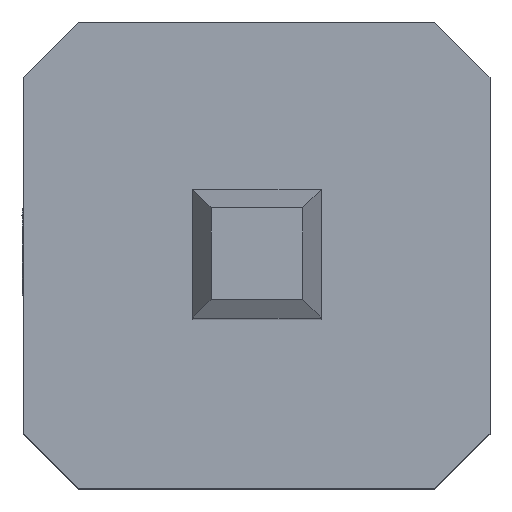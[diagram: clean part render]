
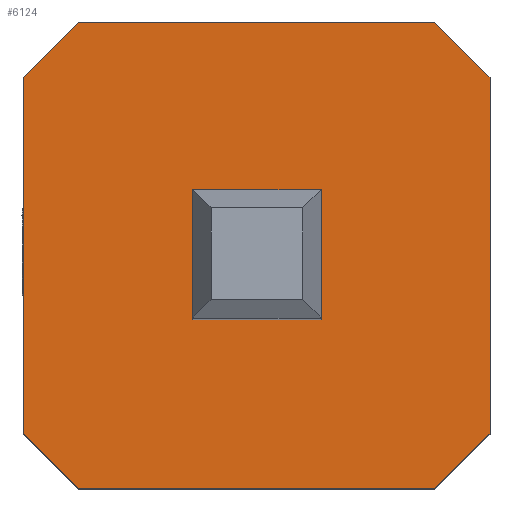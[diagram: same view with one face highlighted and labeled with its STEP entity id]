
A CAD part, top view. The second image highlights one B-rep face of the part: STEP entity #6124.
In plain terms, the highlighted planar face has unit normal (0, 0, 1).
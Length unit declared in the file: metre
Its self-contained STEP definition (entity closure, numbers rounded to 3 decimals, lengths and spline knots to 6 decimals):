
#534=LINE('',#12612,#1073);
#536=LINE('',#12616,#1075);
#538=LINE('',#12620,#1077);
#539=LINE('',#12622,#1078);
#558=LINE('',#12663,#1097);
#559=LINE('',#12666,#1098);
#560=LINE('',#12668,#1099);
#561=LINE('',#12670,#1100);
#562=LINE('',#12672,#1101);
#563=LINE('',#12674,#1102);
#564=LINE('',#12676,#1103);
#565=LINE('',#12678,#1104);
#1073=VECTOR('',#9942,1.);
#1075=VECTOR('',#9946,1.);
#1077=VECTOR('',#9950,1.);
#1078=VECTOR('',#9953,1.);
#1097=VECTOR('',#9984,1.);
#1098=VECTOR('',#9985,1.);
#1099=VECTOR('',#9986,1.);
#1100=VECTOR('',#9987,1.);
#1101=VECTOR('',#9988,1.);
#1102=VECTOR('',#9989,1.);
#1103=VECTOR('',#9990,1.);
#1104=VECTOR('',#9991,1.);
#2744=ORIENTED_EDGE('',*,*,#3846,.T.);
#2745=ORIENTED_EDGE('',*,*,#3847,.T.);
#2746=ORIENTED_EDGE('',*,*,#3848,.T.);
#2747=ORIENTED_EDGE('',*,*,#3849,.T.);
#2748=ORIENTED_EDGE('',*,*,#3850,.T.);
#2749=ORIENTED_EDGE('',*,*,#3851,.T.);
#2750=ORIENTED_EDGE('',*,*,#3852,.T.);
#2751=ORIENTED_EDGE('',*,*,#3853,.T.);
#2752=ORIENTED_EDGE('',*,*,#3822,.F.);
#2753=ORIENTED_EDGE('',*,*,#3824,.F.);
#2754=ORIENTED_EDGE('',*,*,#3826,.F.);
#2755=ORIENTED_EDGE('',*,*,#3827,.F.);
#3822=EDGE_CURVE('',#4400,#4399,#534,.T.);
#3824=EDGE_CURVE('',#4401,#4400,#536,.T.);
#3826=EDGE_CURVE('',#4402,#4401,#538,.T.);
#3827=EDGE_CURVE('',#4399,#4402,#539,.T.);
#3846=EDGE_CURVE('',#4419,#4420,#558,.T.);
#3847=EDGE_CURVE('',#4420,#4421,#559,.T.);
#3848=EDGE_CURVE('',#4421,#4422,#560,.T.);
#3849=EDGE_CURVE('',#4422,#4423,#561,.T.);
#3850=EDGE_CURVE('',#4423,#4424,#562,.T.);
#3851=EDGE_CURVE('',#4424,#4425,#563,.T.);
#3852=EDGE_CURVE('',#4425,#4426,#564,.T.);
#3853=EDGE_CURVE('',#4426,#4419,#565,.T.);
#4399=VERTEX_POINT('',#12609);
#4400=VERTEX_POINT('',#12611);
#4401=VERTEX_POINT('',#12615);
#4402=VERTEX_POINT('',#12619);
#4419=VERTEX_POINT('',#12664);
#4420=VERTEX_POINT('',#12665);
#4421=VERTEX_POINT('',#12667);
#4422=VERTEX_POINT('',#12669);
#4423=VERTEX_POINT('',#12671);
#4424=VERTEX_POINT('',#12673);
#4425=VERTEX_POINT('',#12675);
#4426=VERTEX_POINT('',#12677);
#4923=EDGE_LOOP('',(#2744,#2745,#2746,#2747,#2748,#2749,#2750,#2751));
#4924=EDGE_LOOP('',(#2752,#2753,#2754,#2755));
#5266=FACE_BOUND('',#4923,.T.);
#5267=FACE_BOUND('',#4924,.T.);
#5491=PLANE('',#8509);
#6124=ADVANCED_FACE('',(#5266,#5267),#5491,.T.);
#8509=AXIS2_PLACEMENT_3D('',#12662,#9982,#9983);
#9942=DIRECTION('',(0.,-1.,0.));
#9946=DIRECTION('',(-1.,0.,0.));
#9950=DIRECTION('',(0.,1.,0.));
#9953=DIRECTION('',(1.,0.,0.));
#9982=DIRECTION('',(0.,0.,1.));
#9983=DIRECTION('',(-1.,0.,0.));
#9984=DIRECTION('',(-0.707,0.707,0.));
#9985=DIRECTION('',(-1.,0.,0.));
#9986=DIRECTION('',(-0.707,-0.707,0.));
#9987=DIRECTION('',(0.,-1.,0.));
#9988=DIRECTION('',(0.707,-0.707,0.));
#9989=DIRECTION('',(1.,0.,0.));
#9990=DIRECTION('',(0.707,0.707,0.));
#9991=DIRECTION('',(0.,1.,0.));
#12609=CARTESIAN_POINT('',(-0.138771,-0.007903,0.0125));
#12611=CARTESIAN_POINT('',(-0.138771,-0.007203,0.0125));
#12612=CARTESIAN_POINT('',(-0.138771,-0.007553,0.0125));
#12615=CARTESIAN_POINT('',(-0.138071,-0.007203,0.0125));
#12616=CARTESIAN_POINT('',(-0.138421,-0.007203,0.0125));
#12619=CARTESIAN_POINT('',(-0.138071,-0.007903,0.0125));
#12620=CARTESIAN_POINT('',(-0.138071,-0.007553,0.0125));
#12622=CARTESIAN_POINT('',(-0.138421,-0.007903,0.0125));
#12662=CARTESIAN_POINT('',(-0.138421,-0.007553,0.0125));
#12663=CARTESIAN_POINT('',(-0.137151,-0.006583,0.0125));
#12664=CARTESIAN_POINT('',(-0.137151,-0.006583,0.0125));
#12665=CARTESIAN_POINT('',(-0.137451,-0.006283,0.0125));
#12666=CARTESIAN_POINT('',(-0.137451,-0.006283,0.0125));
#12667=CARTESIAN_POINT('',(-0.139391,-0.006283,0.0125));
#12668=CARTESIAN_POINT('',(-0.139391,-0.006283,0.0125));
#12669=CARTESIAN_POINT('',(-0.139691,-0.006583,0.0125));
#12670=CARTESIAN_POINT('',(-0.139691,-0.008523,0.0125));
#12671=CARTESIAN_POINT('',(-0.139691,-0.008523,0.0125));
#12672=CARTESIAN_POINT('',(-0.139391,-0.008823,0.0125));
#12673=CARTESIAN_POINT('',(-0.139391,-0.008823,0.0125));
#12674=CARTESIAN_POINT('',(-0.137451,-0.008823,0.0125));
#12675=CARTESIAN_POINT('',(-0.137451,-0.008823,0.0125));
#12676=CARTESIAN_POINT('',(-0.137151,-0.008523,0.0125));
#12677=CARTESIAN_POINT('',(-0.137151,-0.008523,0.0125));
#12678=CARTESIAN_POINT('',(-0.137151,-0.008523,0.0125));
